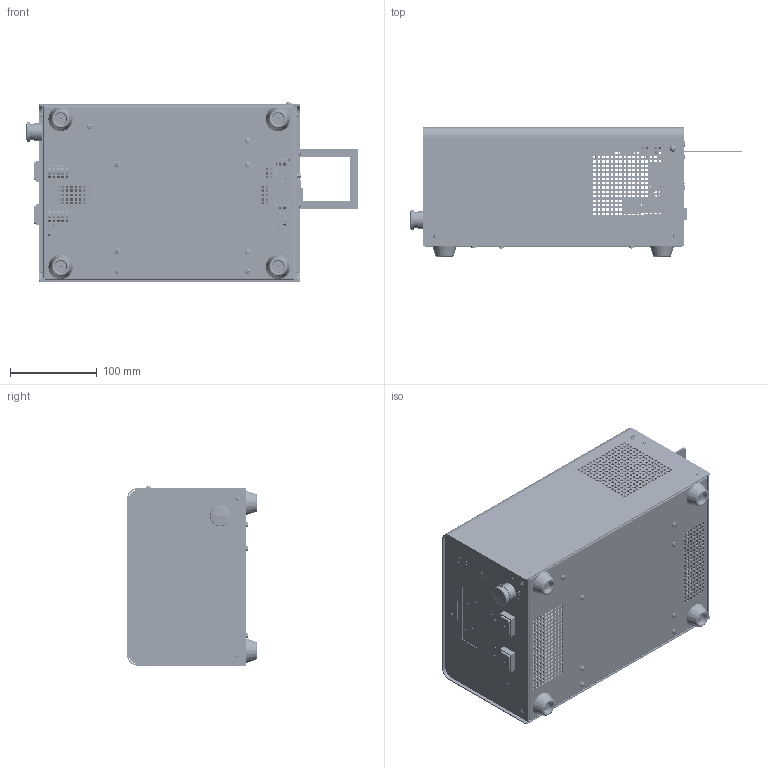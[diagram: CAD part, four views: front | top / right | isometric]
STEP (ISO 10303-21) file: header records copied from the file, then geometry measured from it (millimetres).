
FILE_DESCRIPTION (( 'STEP AP203' ), '1' );
FILE_NAME ('Einachs-Controller MC1-10 - ArtNr 381518 0010.STEP', '2013-02-26T08:01:03', ( 'test' ), ( 'Microsoft' ), 'SwSTEP 2.0', 'SolidWorks 2012', '' );
FILE_SCHEMA (( 'CONFIG_CONTROL_DESIGN' ));
Length unit declared in the file: millimetre
Products named in the file (1): Einachs-Controller MC1-10 - ArtNr 381518 0010
Bounding box: 381.78 x 149 x 206.1 mm (x, y, z)
Volume: 697535.3 mm3; surface area: 814834.6 mm2
Topology: 68 solids, 68 shells, 14002 faces, 36903 edges, 24087 vertices
Faces by surface type: plane 11285, bspline 1905, cylinder 621, cone 91, torus 71, sphere 29
Full cylindrical faces by diameter (mm): 1 x18, 1.25 x30, 1.75 x15, 2 x54, 2.5 x29, 3 x33, 3.2 x19, 3.5 x14, 3.81 x1, 4 x6, 4.2 x1, 4.5 x1, 5 x17, 5.4 x4, 6 x12, 6.5 x1, 7 x1, 8 x7, 8.25 x1, 10 x3, 10.25 x2, 11.5 x2, 13.5 x4, 16 x10, 18 x1, 20 x2, 22 x1, 23.5 x1, 40 x1, 50 x1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
Entity records: 521762 total; most frequent: CARTESIAN_POINT 186131, ORIENTED_EDGE 72752, DIRECTION 58320, EDGE_CURVE 36376, LINE 30884, VECTOR 30884, VERTEX_POINT 24006, EDGE_LOOP 17496
